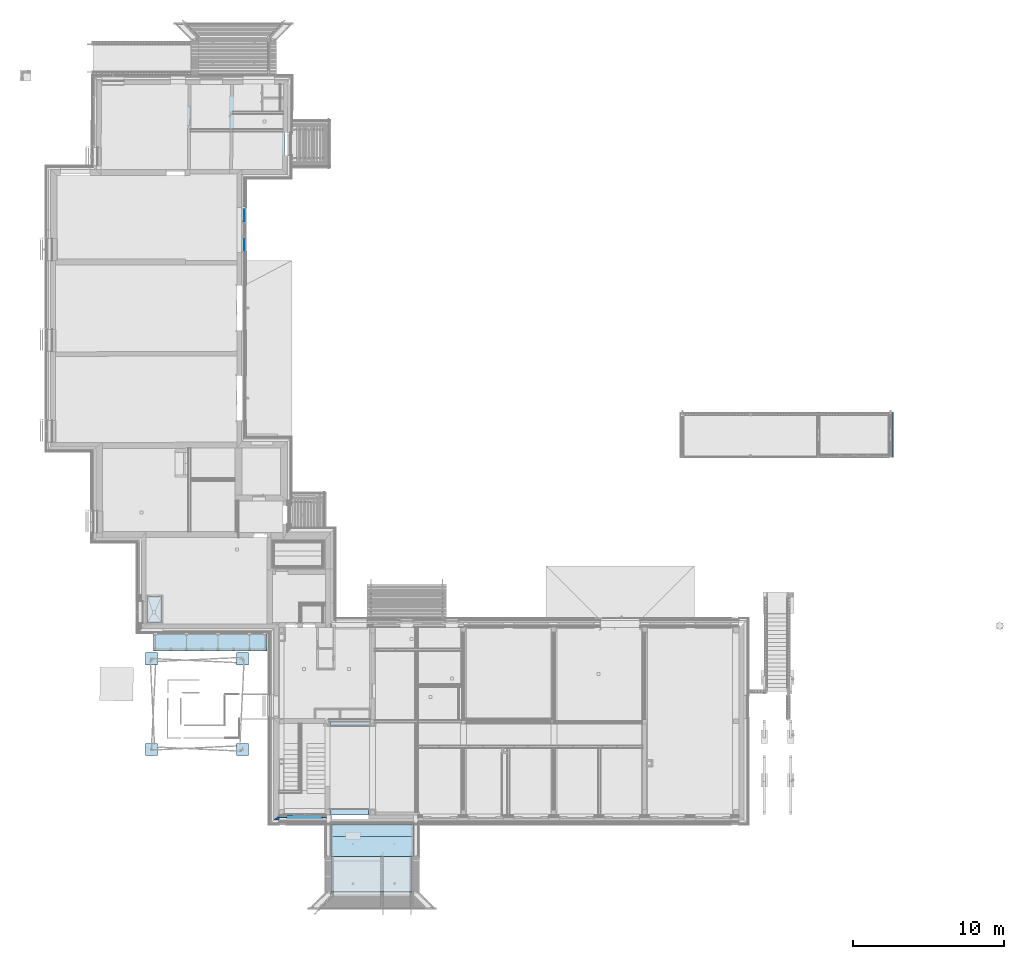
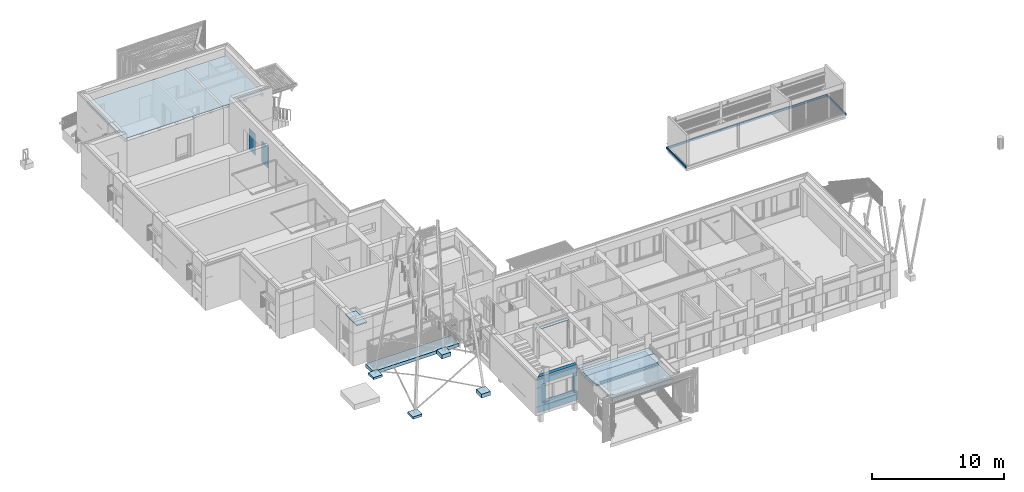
# One storey, part 20 of 418: 9 slabs, 7 plates, 2 walls, 2 openings, 1 element without a shape of its own.
"""IFC2X3 building model written with IfcOpenShell, lengths in millimetres."""

import ifcopenshell
import ifcopenshell.guid

model = None  # the IFC model being written
_history = None  # IfcOwnerHistory: only IFC2X3 demands one
_inside = {}  # id of a spatial element -> (the spatial element, [elements in it])
_under = {}  # id of a project, library or spatial element -> (it, [spatial elements below it])
_declared = {}  # id of a project -> (the project, [libraries it declares])
_typed = {}  # id of a type object -> (the type object, [elements of that type])
_made_of = {}  # id of a material, layer set ... -> (it, [elements and type objects made of it])


def new_model(schema):
    """Start an empty IFC model of exactly this schema.

    Asked for "IFC4X3", IfcOpenShell would pick the latest addendum, in which some entities
    have other attributes; the version numbers below select the first issue.
    IFC2X3 requires an IfcOwnerHistory on every rooted entity: one is made here for all.
    """
    global model, _history
    if schema == "IFC4X3":
        model = ifcopenshell.file(schema_version=(4, 3, 0, 0))
    else:
        model = ifcopenshell.file(schema=schema)
    _inside.clear()
    _under.clear()
    _declared.clear()
    _typed.clear()
    _made_of.clear()
    _history = None
    if model.schema == "IFC2X3":
        org = make("IfcOrganization", Name="unknown")
        user = make(
            "IfcPersonAndOrganization",
            ThePerson=make("IfcPerson", FamilyName="unknown"),
            TheOrganization=org,
        )
        app = make(
            "IfcApplication",
            ApplicationDeveloper=org,
            Version="unknown",
            ApplicationFullName="unknown",
            ApplicationIdentifier="unknown",
        )
        _history = make(
            "IfcOwnerHistory",
            OwningUser=user,
            OwningApplication=app,
            ChangeAction="ADDED",
            CreationDate=0,
        )
    return model


def make(cls, **values):
    """One entity of the class cls with the attributes given. An attribute that is None is left unset."""
    return model.create_entity(
        cls, **{name: value for name, value in values.items() if value is not None}
    )


def entity(cls, *values):
    """Any entity or typed value of the class cls, its attributes in the order of the schema. None: left unset."""
    e = model.create_entity(cls)
    for i, value in enumerate(values):
        if value is not None:
            e[i] = value
    return e


def rooted(cls, **values):
    """An entity with a GlobalId (a new one), such as an element, a storey or a relation."""
    return make(cls, GlobalId=ifcopenshell.guid.new(), OwnerHistory=_history, **values)


def si_unit(unit_type, name, prefix=None):
    """IfcSIUnit, for example si_unit("LENGTHUNIT", "METRE", prefix="MILLI")."""
    return make("IfcSIUnit", UnitType=unit_type, Prefix=prefix, Name=name)


def converted_unit(unit_type, name, factor, base, dimensions=None, offset=None):
    """IfcConversionBasedUnit, such as the inch: factor (a typed value) times the base unit."""
    return make(
        "IfcConversionBasedUnit"
        if offset is None
        else "IfcConversionBasedUnitWithOffset",
        ConversionOffset=offset,
        Dimensions=None
        if dimensions is None
        else entity("IfcDimensionalExponents", *dimensions),
        UnitType=unit_type,
        Name=name,
        ConversionFactor=make(
            "IfcMeasureWithUnit", ValueComponent=factor, UnitComponent=base
        ),
    )


def derived_unit(unit_type, elements):
    """IfcDerivedUnit: a product of units, each with its exponent."""
    return make(
        "IfcDerivedUnit",
        Elements=[
            make("IfcDerivedUnitElement", Unit=unit, Exponent=power)
            for unit, power in elements
        ],
        UnitType=unit_type,
    )


def money_unit(currency):
    """IfcMonetaryUnit."""
    return make("IfcMonetaryUnit", Currency=currency)


def assignment(units):
    """IfcUnitAssignment: the units of a project."""
    return None if units is None else make("IfcUnitAssignment", Units=units)


def point(xyz):
    """IfcCartesianPoint."""
    return None if xyz is None else make("IfcCartesianPoint", Coordinates=xyz)


def direction(xyz):
    """IfcDirection."""
    return None if xyz is None else make("IfcDirection", DirectionRatios=xyz)


def frame(location, z_axis=None, x_axis=None):
    """IfcAxis2Placement3D, a coordinate frame: its origin and axes. An axis left out is left unset."""
    return make(
        "IfcAxis2Placement3D",
        Location=point(location),
        Axis=direction(z_axis),
        RefDirection=direction(x_axis),
    )


def frame_2d(location, x_axis=None):
    """IfcAxis2Placement2D, a coordinate frame in the plane: its origin and x axis."""
    return make(
        "IfcAxis2Placement2D", Location=point(location), RefDirection=direction(x_axis)
    )


def origin_with_axes():
    """The frame at (0, 0, 0) with the z axis (0, 0, 1) and the x axis (1, 0, 0) written out."""
    return frame((0.0, 0.0, 0.0), z_axis=(0.0, 0.0, 1.0), x_axis=(1.0, 0.0, 0.0))


def origin_2d_with_axis():
    """The frame at (0, 0) in the plane with the x axis (1, 0) written out."""
    return frame_2d((0.0, 0.0), x_axis=(1.0, 0.0))


def place(relative_to, where):
    """IfcLocalPlacement: puts the frame where relative to a parent placement (None: the world)."""
    return make(
        "IfcLocalPlacement", PlacementRelTo=relative_to, RelativePlacement=where
    )


def context(
    kind, dimensions, precision=None, world=None, true_north=None, identifier=None
):
    """IfcGeometricRepresentationContext, for example the 3D "Model" context."""
    return make(
        "IfcGeometricRepresentationContext",
        ContextIdentifier=identifier,
        ContextType=kind,
        CoordinateSpaceDimension=dimensions,
        Precision=precision,
        WorldCoordinateSystem=world,
        TrueNorth=true_north,
    )


def subcontext(parent, identifier, kind, view, scale=None):
    """IfcGeometricRepresentationSubContext, for example "Body" below "Model"."""
    return make(
        "IfcGeometricRepresentationSubContext",
        ContextIdentifier=identifier,
        ContextType=kind,
        ParentContext=parent,
        TargetScale=scale,
        TargetView=view,
    )


def project(units=None, contexts=None):
    """IfcProject with its units and contexts."""
    return rooted(
        "IfcProject",
        Name="project",
        RepresentationContexts=contexts,
        UnitsInContext=assignment(units),
    )


def spatial(cls, under=None, at=None, **own):
    """A site, building, storey or space (cls), placed at a placement, below another one or the project."""
    s = rooted(cls, ObjectPlacement=at, **own)
    if under is not None:
        _under.setdefault(under.id(), (under, []))[1].append(s)
    return s


def polyline(points):
    """IfcPolyline through the points."""
    return make("IfcPolyline", Points=[point(p) for p in points])


def circle_curve(where, radius):
    """IfcCircle in the frame where."""
    return make("IfcCircle", Position=where, Radius=radius)


def parameter(value):
    """IfcParameterValue: where a trimmed curve begins or ends, as a parameter of its basis curve."""
    return model.create_entity("IfcParameterValue", value)


def trimmed(basis, trim1, trim2, sense, master):
    """IfcTrimmedCurve: the piece of a basis curve between two trims."""
    return make(
        "IfcTrimmedCurve",
        BasisCurve=basis,
        Trim1=trim1,
        Trim2=trim2,
        SenseAgreement=sense,
        MasterRepresentation=master,
    )


def segment(curve, same_sense, transition):
    """IfcCompositeCurveSegment."""
    return make(
        "IfcCompositeCurveSegment",
        Transition=transition,
        SameSense=same_sense,
        ParentCurve=curve,
    )


def composite_curve(segments, self_intersect=None):
    """IfcCompositeCurve: segments joined end to end."""
    return make("IfcCompositeCurve", Segments=segments, SelfIntersect=self_intersect)


def profile(cls, at=None, kind="AREA", **sizes):
    """A parametric profile (cls). Its sizes go by their IFC names, for example OverallWidth=200.0."""
    return make(cls, ProfileType=kind, Position=at, **sizes)


def rectangle(**sizes):
    """IfcRectangleProfileDef."""
    return profile("IfcRectangleProfileDef", **sizes)


def outline(outer, holes=None, kind="AREA"):
    """IfcArbitraryClosedProfileDef: a profile drawn as a closed curve; with holes, ...WithVoids."""
    if holes is None:
        return make("IfcArbitraryClosedProfileDef", ProfileType=kind, OuterCurve=outer)
    return make(
        "IfcArbitraryProfileDefWithVoids",
        ProfileType=kind,
        OuterCurve=outer,
        InnerCurves=holes,
    )


def extrude(swept, where, along, depth):
    """IfcExtrudedAreaSolid: the profile swept, set in the frame where, extruded along a direction by depth."""
    return make(
        "IfcExtrudedAreaSolid",
        SweptArea=swept,
        Position=where,
        ExtrudedDirection=direction(along),
        Depth=depth,
    )


def boolean(op, a, b):
    """IfcBooleanResult of two solids."""
    return make("IfcBooleanResult", Operator=op, FirstOperand=a, SecondOperand=b)


def faces_of(points, faces, orient=None, outer=None):
    """IfcFace entities. A face is a list of loops; a loop is a list of indices into points, from 0.

    orient and outer hold one flag for each loop. By default every Orientation is true, the
    first loop of a face is its IfcFaceOuterBound and the others are IfcFaceBound.
    """
    made = []
    for i, loops in enumerate(faces):
        bounds = []
        for j, loop in enumerate(loops):
            is_outer = j == 0 if outer is None else outer[i][j]
            bounds.append(
                make(
                    "IfcFaceOuterBound" if is_outer else "IfcFaceBound",
                    Bound=make("IfcPolyLoop", Polygon=[points[k] for k in loop]),
                    Orientation=True if orient is None else orient[i][j],
                )
            )
        made.append(make("IfcFace", Bounds=bounds))
    return made


def faceted_brep(points, faces, orient=None, outer=None, voids=None):
    """IfcFacetedBrep: a solid bounded by flat faces; with voids (closed shells), ...WithVoids."""
    shared = [point(p) for p in points]
    hull = make("IfcClosedShell", CfsFaces=faces_of(shared, faces, orient, outer))
    if voids is None:
        return make("IfcFacetedBrep", Outer=hull)
    return make(
        "IfcFacetedBrepWithVoids",
        Outer=hull,
        Voids=[
            make(cls, CfsFaces=faces_of(shared, fs, o, b)) for cls, fs, o, b in voids
        ],
    )


def shape(context_of_items, identifier, shape_type, items):
    """IfcShapeRepresentation: the items that make up one representation, for example the "Body"."""
    return make(
        "IfcShapeRepresentation",
        ContextOfItems=context_of_items,
        RepresentationIdentifier=identifier,
        RepresentationType=shape_type,
        Items=items,
    )


def material(Name=None, Category=None):
    """IfcMaterial."""
    return make("IfcMaterial", Name=Name, Category=Category)


def layer(
    of_material, thickness, ventilated=None, Name=None, Category=None, Priority=None
):
    """IfcMaterialLayer: one layer of a wall or slab, of a material (None: an air gap)."""
    return make(
        "IfcMaterialLayer",
        Material=of_material,
        LayerThickness=thickness,
        IsVentilated=ventilated,
        Name=Name,
        Category=Category,
        Priority=Priority,
    )


def layer_set(layers, Name=None):
    """IfcMaterialLayerSet."""
    return make("IfcMaterialLayerSet", MaterialLayers=layers, LayerSetName=Name)


def layer_usage(for_layer_set, set_direction, sense, offset, extent=None):
    """IfcMaterialLayerSetUsage: how a layer set lies in its element."""
    return make(
        "IfcMaterialLayerSetUsage",
        ForLayerSet=for_layer_set,
        LayerSetDirection=set_direction,
        DirectionSense=sense,
        OffsetFromReferenceLine=offset,
        ReferenceExtent=extent,
    )


def made_of(thing, what):
    """Note that an element or type object is made of a material, layer set ...; save() writes the relation."""
    if what is not None:
        _made_of.setdefault(what.id(), (what, []))[1].append(thing)
    return thing


def type_object(cls, material=None, **own):
    """A type object (cls), such as IfcWallType, which elements share."""
    return made_of(rooted(cls, **own), material)


def element(
    cls,
    number,
    at=None,
    inside=None,
    cuts=None,
    type_object=None,
    material=None,
    context=None,
    identifier="Body",
    shape_type=None,
    held_by="IfcProductDefinitionShape",
    body=None,
    shapes=None,
    **own,
):
    """One element of the class cls, such as IfcWall. Its Tag is "e" and its number.

    at: its placement. inside: the storey or other place that contains it. cuts: it is an
    opening in that element (IfcRelVoidsElement). A single representation is given by context,
    identifier, shape_type and body (its items); several are given by shapes. held_by: the class
    of the entity that holds the representations. save() writes the other relations.
    """
    e = rooted(cls, Tag="e%d" % number, ObjectPlacement=at, **own)
    if body is not None:
        shapes = [shape(context, identifier, shape_type, body)]
    if shapes is not None:
        e.Representation = make(held_by, Representations=shapes)
    if inside is not None:
        _inside.setdefault(inside.id(), (inside, []))[1].append(e)
    if cuts is not None:
        rooted(
            "IfcRelVoidsElement", RelatingBuildingElement=cuts, RelatedOpeningElement=e
        )
    if type_object is not None:
        _typed.setdefault(type_object.id(), (type_object, []))[1].append(e)
    return made_of(e, material)


def aggregate(whole, parts):
    """IfcRelAggregates: a whole, such as a stair, and the parts it consists of."""
    return rooted("IfcRelAggregates", RelatingObject=whole, RelatedObjects=parts)


def save(model, path):
    """Write the relations noted so far, then the file.

    IfcRelAggregates (storeys below a building ...), IfcRelContainedInSpatialStructure (elements
    in a storey), IfcRelDefinesByType, IfcRelAssociatesMaterial and IfcRelDeclares: one each for
    every whole, place, type object, material and project.
    """
    for whole, parts in _under.values():
        aggregate(whole, parts)
    for where, things in _inside.values():
        rooted(
            "IfcRelContainedInSpatialStructure",
            RelatedElements=things,
            RelatingStructure=where,
        )
    for kind, things in _typed.values():
        rooted("IfcRelDefinesByType", RelatedObjects=things, RelatingType=kind)
    for what, things in _made_of.values():
        rooted("IfcRelAssociatesMaterial", RelatedObjects=things, RelatingMaterial=what)
    for by, libraries in _declared.values():
        rooted("IfcRelDeclares", RelatingContext=by, RelatedDefinitions=libraries)
    model.write(path)


model = new_model("IFC2X3")

# Units and contexts
model_context = context("Model", 3, precision=0.01, world=origin_with_axes(), true_north=direction((0.0, 1.0)))
body_context = subcontext(model_context, "Body", "Model", "MODEL_VIEW")
ifc_project = project(units=[si_unit("LENGTHUNIT", "METRE", prefix="MILLI"), si_unit("AREAUNIT", "SQUARE_METRE"), si_unit("VOLUMEUNIT", "CUBIC_METRE"), converted_unit("PLANEANGLEUNIT", "DEGREE", entity("IfcPlaneAngleMeasure", 0.0174532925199), si_unit("PLANEANGLEUNIT", "RADIAN"), dimensions=[0, 0, 0, 0, 0, 0, 0]), si_unit("SOLIDANGLEUNIT", "STERADIAN"), money_unit("EUR"), converted_unit("TIMEUNIT", "Year", entity("IfcTimeMeasure", 31556926.0), si_unit("TIMEUNIT", "SECOND"), dimensions=[0, 0, 1, 0, 0, 0, 0]), si_unit("MASSUNIT", "GRAM", prefix="KILO"), si_unit("THERMODYNAMICTEMPERATUREUNIT", "DEGREE_CELSIUS"), si_unit("LUMINOUSINTENSITYUNIT", "LUMEN"), si_unit("ENERGYUNIT", "JOULE", prefix="MEGA"), derived_unit("THERMALCONDUCTANCEUNIT", [(si_unit("POWERUNIT", "WATT"), 1), (si_unit("LENGTHUNIT", "METRE"), -1), (si_unit("THERMODYNAMICTEMPERATUREUNIT", "KELVIN"), -1)]), derived_unit("SPECIFICHEATCAPACITYUNIT", [(si_unit("ENERGYUNIT", "JOULE"), 1), (si_unit("MASSUNIT", "GRAM", prefix="KILO"), -1), (si_unit("THERMODYNAMICTEMPERATUREUNIT", "KELVIN"), -1)]), derived_unit("MASSDENSITYUNIT", [(si_unit("MASSUNIT", "GRAM", prefix="KILO"), 1), (si_unit("VOLUMEUNIT", "CUBIC_METRE"), -1)])], contexts=[model_context])

# Site, building, storey
site_placement = place(None, origin_with_axes())
site = spatial("IfcSite", under=ifc_project, at=site_placement, Name="Paldiski mnt 245/1, Tallinn, Harjumaa", CompositionType="COMPLEX")
building_placement = place(site_placement, origin_with_axes())
building = spatial("IfcBuilding", under=site, at=building_placement, Name="RKAS Hoone üldnimetus (kasutust iseloomustav) -> IFC Project Manager -> SOLIBRI", CompositionType="ELEMENT")
storey_placement = place(building_placement, origin_with_axes())
storey = spatial("IfcBuildingStorey", under=building, at=storey_placement, Name="Esimene korrus", CompositionType="ELEMENT", Elevation=0.0)

# Slabs
ifc_material_1 = material(Name="SV-03_Plaat - Põrand")
slab_type_1 = type_object("IfcSlabType", Name="LADU LAGI 1_puhas paneel 12132 x 300", PredefinedType="ROOF")
slab_1_placement = place(storey_placement, frame((-47359.4811683, 35770.1148432, 3121.80696097), z_axis=(0.0, 0.0, 1.0), x_axis=(0.0, -1.0, 0.0)))
element("IfcSlab", 1, at=slab_1_placement, inside=storey, type_object=slab_type_1, material=ifc_material_1, Name="KL-02", PredefinedType="ROOF", context=body_context, shape_type="SweptSolid", body=[
    extrude(outline(composite_curve([segment(polyline([(91.6949504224, 300.0), (-12040.6098448, 300.0), (-12040.6098448, 0.0), (-11923.5312461, 0.0), (-11885.7551019, 203.193086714)]), True, "CONTINUOUS"), segment(trimmed(circle_curve(frame_2d((-11800.0891864, 181.909225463), x_axis=(-0.0637515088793, 0.99796580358)), 88.2703337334), [point((-11885.7551019, 203.193086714)), parameter(72.3920965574)], [point((-11805.7165534, 270.0)), parameter(0.0)], False, "CARTESIAN"), True, "CONTINUOUS"), segment(polyline([(-11805.7165534, 270.0), (-10690.8273104, 270.0)]), True, "CONTINUOUS"), segment(trimmed(circle_curve(frame_2d((-10691.4291008, 187.602546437), x_axis=(0.95533279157, 0.29553215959)), 82.3996511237), [point((-10690.8273104, 270.0)), parameter(72.3920965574)], [point((-10612.7100121, 211.954293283)), parameter(0.0)], False, "CARTESIAN"), True, "CONTINUOUS"), segment(polyline([(-10612.7100121, 211.954293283), (-10573.3050496, 0.0), (-10423.3050496, 0.0), (-10383.9000871, 211.954293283)]), True, "CONTINUOUS"), segment(trimmed(circle_curve(frame_2d((-10305.1809984, 187.602546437), x_axis=(-0.00730331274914, 0.999973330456)), 82.3996511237), [point((-10383.9000871, 211.954293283)), parameter(72.3920965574)], [point((-10305.7827888, 270.0)), parameter(0.0)], False, "CARTESIAN"), True, "CONTINUOUS"), segment(polyline([(-10305.7827888, 270.0), (-9170.82731038, 270.0)]), True, "CONTINUOUS"), segment(trimmed(circle_curve(frame_2d((-9171.42910081, 187.602546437), x_axis=(0.95533279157, 0.29553215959)), 82.3996511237), [point((-9170.82731038, 270.0)), parameter(72.3920965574)], [point((-9092.71001207, 211.954293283)), parameter(0.0)], False, "CARTESIAN"), True, "CONTINUOUS"), segment(polyline([(-9092.71001207, 211.954293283), (-9053.30504958, 0.0), (-8903.30504958, 0.0), (-8863.90008708, 211.954293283)]), True, "CONTINUOUS"), segment(trimmed(circle_curve(frame_2d((-8785.18099835, 187.602546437), x_axis=(-0.00730331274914, 0.999973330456)), 82.3996511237), [point((-8863.90008708, 211.954293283)), parameter(72.3920965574)], [point((-8785.78278877, 270.0)), parameter(0.0)], False, "CARTESIAN"), True, "CONTINUOUS"), segment(polyline([(-8785.78278877, 270.0), (-7650.82731038, 270.0)]), True, "CONTINUOUS"), segment(trimmed(circle_curve(frame_2d((-7651.42910081, 187.602546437), x_axis=(0.95533279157, 0.29553215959)), 82.3996511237), [point((-7650.82731038, 270.0)), parameter(72.3920965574)], [point((-7572.71001207, 211.954293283)), parameter(0.0)], False, "CARTESIAN"), True, "CONTINUOUS"), segment(polyline([(-7572.71001207, 211.954293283), (-7533.30504958, 0.0), (-7383.30504958, 0.0), (-7343.90008708, 211.954293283)]), True, "CONTINUOUS"), segment(trimmed(circle_curve(frame_2d((-7265.18099835, 187.602546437), x_axis=(-0.00730331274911, 0.999973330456)), 82.3996511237), [point((-7343.90008708, 211.954293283)), parameter(72.3920965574)], [point((-7265.78278877, 270.0)), parameter(0.0)], False, "CARTESIAN"), True, "CONTINUOUS"), segment(polyline([(-7265.78278877, 270.0), (-6150.82731038, 270.0)]), True, "CONTINUOUS"), segment(trimmed(circle_curve(frame_2d((-6151.42910081, 187.602546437), x_axis=(0.95533279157, 0.29553215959)), 82.3996511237), [point((-6150.82731038, 270.0)), parameter(72.3920965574)], [point((-6072.71001207, 211.954293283)), parameter(0.0)], False, "CARTESIAN"), True, "CONTINUOUS"), segment(polyline([(-6072.71001207, 211.954293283), (-6033.30504958, 0.0), (-5883.30504958, 0.0), (-5843.90008708, 211.954293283)]), True, "CONTINUOUS"), segment(trimmed(circle_curve(frame_2d((-5765.18099835, 187.602546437), x_axis=(-0.00730331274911, 0.999973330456)), 82.3996511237), [point((-5843.90008708, 211.954293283)), parameter(72.3920965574)], [point((-5765.78278877, 270.0)), parameter(0.0)], False, "CARTESIAN"), True, "CONTINUOUS"), segment(polyline([(-5765.78278877, 270.0), (-4640.82731038, 270.0)]), True, "CONTINUOUS"), segment(trimmed(circle_curve(frame_2d((-4641.42910081, 187.602546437), x_axis=(0.95533279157, 0.29553215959)), 82.3996511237), [point((-4640.82731038, 270.0)), parameter(72.3920965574)], [point((-4562.71001207, 211.954293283)), parameter(0.0)], False, "CARTESIAN"), True, "CONTINUOUS"), segment(polyline([(-4562.71001207, 211.954293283), (-4523.30504958, 0.0), (-4373.30504958, 0.0), (-4333.90008708, 211.954293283)]), True, "CONTINUOUS"), segment(trimmed(circle_curve(frame_2d((-4255.18099835, 187.602546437), x_axis=(-0.00730331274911, 0.999973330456)), 82.3996511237), [point((-4333.90008708, 211.954293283)), parameter(72.3920965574)], [point((-4255.78278877, 270.0)), parameter(0.0)], False, "CARTESIAN"), True, "CONTINUOUS"), segment(polyline([(-4255.78278877, 270.0), (-3140.82731038, 270.0)]), True, "CONTINUOUS"), segment(trimmed(circle_curve(frame_2d((-3141.42910081, 187.602546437), x_axis=(0.95533279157, 0.29553215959)), 82.3996511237), [point((-3140.82731038, 270.0)), parameter(72.3920965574)], [point((-3062.71001207, 211.954293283)), parameter(0.0)], False, "CARTESIAN"), True, "CONTINUOUS"), segment(polyline([(-3062.71001207, 211.954293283), (-3023.30504958, 0.0), (-2873.30504958, 0.0), (-2833.90008708, 211.954293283)]), True, "CONTINUOUS"), segment(trimmed(circle_curve(frame_2d((-2755.18099835, 187.602546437), x_axis=(-0.00730331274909, 0.999973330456)), 82.3996511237), [point((-2833.90008708, 211.954293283)), parameter(72.3920965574)], [point((-2755.78278877, 270.0)), parameter(0.0)], False, "CARTESIAN"), True, "CONTINUOUS"), segment(polyline([(-2755.78278877, 270.0), (-1640.82731038, 270.0)]), True, "CONTINUOUS"), segment(trimmed(circle_curve(frame_2d((-1641.42910081, 187.602546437), x_axis=(0.95533279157, 0.29553215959)), 82.3996511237), [point((-1640.82731038, 270.0)), parameter(72.3920965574)], [point((-1562.71001207, 211.954293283)), parameter(0.0)], False, "CARTESIAN"), True, "CONTINUOUS"), segment(polyline([(-1562.71001207, 211.954293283), (-1523.30504958, 0.0), (-1373.30504958, 0.0), (-1333.90008708, 211.954293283)]), True, "CONTINUOUS"), segment(trimmed(circle_curve(frame_2d((-1255.18099835, 187.602546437), x_axis=(-0.00730331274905, 0.999973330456)), 82.3996511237), [point((-1333.90008708, 211.954293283)), parameter(72.3920965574)], [point((-1255.78278877, 270.0)), parameter(0.0)], False, "CARTESIAN"), True, "CONTINUOUS"), segment(polyline([(-1255.78278877, 270.0), (-140.827310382, 270.0)]), True, "CONTINUOUS"), segment(trimmed(circle_curve(frame_2d((-141.429100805, 187.602546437), x_axis=(0.95533279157, 0.29553215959)), 82.3996511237), [point((-140.827310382, 270.0)), parameter(72.3920965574)], [point((-62.7100120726, 211.954293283)), parameter(0.0)], False, "CARTESIAN"), True, "CONTINUOUS"), segment(polyline([(-62.7100120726, 211.954293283), (-23.3050495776, 0.0), (91.6949504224, 0.0), (91.6949504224, 300.0)]), True, "CONTINUOUS")], self_intersect=False)), frame((0.0, 0.0, 0.0), z_axis=(1.0, 0.0, 0.0), x_axis=(0.0, 1.0, 0.0)), (0.0, 0.0, 1.0), 5740.1148432),
])
ifc_material_2 = material(Name="SKR-02_Kipsplaat")
ifc_layer_1 = layer(ifc_material_2, 13.0, ventilated="UNKNOWN")
ifc_layer_set_1 = layer_set([ifc_layer_1], Name="SKR-02_Kipsplaat 13")
ifc_layer_usage_1 = layer_usage(ifc_layer_set_1, "AXIS3", "NEGATIVE", 13.0)
slab_type_2 = type_object("IfcSlabType", Name="SKR-02_Kipsplaat 13", PredefinedType="NOTDEFINED")
slab_2_placement = place(storey_placement, frame((-44250.0000219, -12509.0840871, 2600.0), z_axis=(0.0, 0.0, 1.0), x_axis=(1.0, 0.0, 0.0)))
element("IfcSlab", 2, at=slab_2_placement, inside=storey, type_object=slab_type_2, material=ifc_layer_usage_1, Name="VL-01", PredefinedType="NOTDEFINED", context=body_context, shape_type="SweptSolid", body=[
    extrude(outline(polyline([(0.0, 0.0), (2560.0, 0.0), (2560.0, 389.0), (0.0, 389.0), (0.0, 0.0)])), origin_with_axes(), (0.0, 0.0, 1.0), 13.0),
])
ifc_layer_usage_2 = layer_usage(ifc_layer_set_1, "AXIS3", "NEGATIVE", 13.0)
slab_3_placement = place(storey_placement, frame((-44250.0000219, -6620.08408706, 2670.0), z_axis=(0.0, 0.0, 1.0), x_axis=(1.0, 0.0, 0.0)))
element("IfcSlab", 3, at=slab_3_placement, inside=storey, type_object=slab_type_2, material=ifc_layer_usage_2, Name="VL-01", PredefinedType="NOTDEFINED", context=body_context, shape_type="SweptSolid", body=[
    extrude(outline(polyline([(0.0, 0.0), (2610.00002186, 0.0), (2610.00002186, 270.084087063), (0.0, 270.084087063), (0.0, 0.0)])), origin_with_axes(), (0.0, 0.0, 1.0), 13.0),
])
ifc_material_3 = material(Name="SP2B E-PIR")
ifc_layer_2 = layer(ifc_material_3, 100.0, ventilated="UNKNOWN")
ifc_layer_set_2 = layer_set([ifc_layer_2], Name="KL-03")
ifc_layer_usage_3 = layer_usage(ifc_layer_set_2, "AXIS3", "NEGATIVE", 100.0)
slab_type_3 = type_object("IfcSlabType", Name="KL-03 100", PredefinedType="ROOF")
slab_4_placement = place(storey_placement, frame((-56290.0, 230.000000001, 3141.80696097), z_axis=(0.0, 0.0, 1.0), x_axis=(1.0, 0.0, 0.0)))
element("IfcSlab", 4, at=slab_4_placement, inside=storey, type_object=slab_type_3, material=ifc_layer_usage_3, Name="KL-03", PredefinedType="ROOF", context=body_context, shape_type="SweptSolid", body=[
    extrude(outline(polyline([(0.0, 0.0), (900.000023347, 0.0), (900.000023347, 1699.99992126), (0.0, 1699.99992126), (0.0, 0.0)])), frame((0.0, 0.0, -100.0), z_axis=(0.0, 0.0, 1.0), x_axis=(1.0, 0.0, 0.0)), (0.0, 0.0, 1.0), 100.0),
])
ifc_material_4 = material(Name="VMR-01_Puit - Katus")
slab_type_4 = type_object("IfcSlabType", Name="VMR-01_Puit - Katus 271", PredefinedType="ROOF")
slab_5_placement = place(storey_placement, frame((-41916.2662214, -17360.8075318, 2607.94375363), z_axis=(0.0, 0.0, 1.0), x_axis=(1.0, 0.0, 0.0)))
element("IfcSlab", 5, at=slab_5_placement, inside=storey, type_object=slab_type_4, material=ifc_material_4, Name="Varikatus", PredefinedType="ROOF", context=body_context, shape_type="Brep", body=[
    faceted_brep([(-2248.4018971, -186.972690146, 271.0), (3079.5981029, -186.972690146, 271.0), (3079.5981029, 2130.72323076, 271.0), (-2248.4018971, 2130.72319999, 271.0), (-2248.40189749, -299.224565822, 2.83121970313e-07), (3079.59810319, -299.224565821, 2.83121970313e-07), (3079.59810319, 2130.72323075, 2.83121970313e-07), (-2248.40189749, 2130.72320002, 2.83121970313e-07)], [[[0, 1, 2, 3]], [[1, 0, 4, 5]], [[2, 1, 5, 6]], [[3, 2, 6, 7]], [[0, 3, 7, 4]], [[5, 4, 7, 6]]]),
])
ifc_material_5 = material(Name="KON-04_Betoon - Konstuktsioon")
ifc_layer_3 = layer(ifc_material_5, 200.0, ventilated="UNKNOWN")
ifc_layer_set_3 = layer_set([ifc_layer_3], Name="KON-04_Betoon - Konstuktsioon 200")
ifc_layer_usage_4 = layer_usage(ifc_layer_set_3, "AXIS3", "NEGATIVE", 200.0)
slab_type_5 = type_object("IfcSlabType", Name="KON-04_Betoon - Konstuktsioon 200", PredefinedType="ROOF")
slab_6_placement = place(storey_placement, frame((-44190.0, -13933.6326889, 2652.1757952), z_axis=(0.0, 0.0, 1.0), x_axis=(1.0, 0.0, 0.0)))
element("IfcSlab", 6, at=slab_6_placement, inside=storey, type_object=slab_type_5, material=ifc_layer_usage_4, Name="KATUS", PredefinedType="ROOF", context=body_context, shape_type="SweptSolid", body=[
    extrude(outline(polyline([(5770.0, 0.0), (5770.0, 806.227889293), (-299.999999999, 806.227889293), (-299.999999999, 0.0), (5770.0, 0.0)])), frame((0.0, 0.0, 0.0), z_axis=(0.0, -0.0814614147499, 0.996676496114), x_axis=(1.0, 0.0, 0.0)), (0.0, 0.0814614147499, 0.996676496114), 200.666917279),
])
ifc_layer_usage_5 = layer_usage(ifc_layer_set_3, "AXIS3", "NEGATIVE", 200.0)
slab_7_placement = place(storey_placement, frame((-38720.0, -13933.6326889, 2652.40042993), z_axis=(0.0, 0.0, 1.0), x_axis=(-1.0, 0.0, 0.0)))
element("IfcSlab", 7, at=slab_7_placement, inside=storey, type_object=slab_type_5, material=ifc_layer_usage_5, Name="KATUS", PredefinedType="ROOF", context=body_context, shape_type="SweptSolid", body=[
    extrude(outline(polyline([(-300.000000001, 0.0), (5770.0, 0.0), (5770.0, 1299.31860183), (-300.000000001, 1299.31860183), (-300.000000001, 0.0)])), frame((0.0, 0.0, 0.0), z_axis=(0.0, -0.0663942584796, 0.997793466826), x_axis=(1.0, 0.0, 0.0)), (0.0, 0.0663942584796, 0.997793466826), 200.442282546),
])
ifc_material_6 = material(Name="KON-00_GENEERILINE - KONSTRUKTSIOON")
ifc_layer_4 = layer(ifc_material_6, 130.041507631, ventilated="UNKNOWN")
ifc_layer_set_4 = layer_set([ifc_layer_4], Name="KON-00_GENEERILINE - KONSTRUKTSIOON 130.042")
ifc_layer_usage_6 = layer_usage(ifc_layer_set_4, "AXIS3", "NEGATIVE", 130.041507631)
slab_type_6 = type_object("IfcSlabType", Name="KON-00_GENEERILINE - KONSTRUKTSIOON 130", PredefinedType="ROOF")
slab_8_placement = place(storey_placement, frame((-44190.0, -15230.0843011, 2737.98526126), z_axis=(0.0, 0.0, 1.0), x_axis=(1.0, 0.0, 0.0)))
element("IfcSlab", 8, at=slab_8_placement, inside=storey, type_object=slab_type_6, material=ifc_layer_usage_6, Name="KATUS", PredefinedType="ROOF", context=body_context, shape_type="CSG", body=[
    boolean("DIFFERENCE", extrude(outline(polyline([(0.0, 0.0), (5470.0, 0.0), (5470.0, 2100.00000039), (0.0, 2100.00000039), (0.0, 0.0)])), frame((0.0, 0.0, -130.041507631), z_axis=(0.0, 0.0, 1.0), x_axis=(1.0, 0.0, 0.0)), (0.0, 0.0, 1.0), 130.041507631), faceted_brep([(5470.0, 1296.45161232, -85.5848315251), (5470.0, 1296.45161207, -85.8094662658), (5470.0, 2100.00000039, -20.1330017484), (5470.0, 2100.00000039, 0.0), (5470.0, 10.2562738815, 0.0), (0.0, 1296.45161232, -85.5848315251), (0.0, 1296.45161207, -85.8094662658), (0.0, 2100.00000039, -20.1330017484), (0.0, 2100.00000039, 0.0), (0.0, 10.256273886, 0.0)], [[[0, 1, 2, 3, 4]], [[1, 0, 5, 6]], [[7, 2, 1, 6]], [[2, 7, 8, 3]], [[9, 4, 3, 8]], [[0, 4, 9, 5]], [[5, 9, 8, 7, 6]]])),
])
ifc_layer_usage_7 = layer_usage(ifc_layer_set_3, "AXIS3", "NEGATIVE", 200.0)
slab_type_7 = type_object("IfcSlabType", Name="KON-04_Betoon - Konstuktsioon 200", PredefinedType="NOTDEFINED")
slab_9_placement = place(storey_placement, frame((-7049.27180457, 11149.7949523, -1060.0), z_axis=(0.0, 0.0, 1.0), x_axis=(1.0, 0.0, 0.0)))
element("IfcSlab", 9, at=slab_9_placement, inside=storey, type_object=slab_type_7, material=ifc_layer_usage_7, Name="Äärekivi", PredefinedType="NOTDEFINED", context=body_context, shape_type="SweptSolid", body=[
    extrude(outline(polyline([(0.0, 0.0), (6.74258346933e-05, 2969.99995291), (-14100.0000242, 2969.99996159), (-14100.0000916, 8.68228156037e-06), (-14019.9999031, 1.37551445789e-05), (-14019.9999779, 2889.99989892), (-79.9999952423, 2889.99990656), (-79.9999204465, 2.13942801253e-05), (0.0, 0.0)])), frame((0.0, 0.0, -200.0), z_axis=(0.0, 0.0, 1.0), x_axis=(1.0, 0.0, 0.0)), (0.0, 0.0, 1.0), 200.0),
])

# Plates
plate_type_1 = type_object("IfcPlateType", Name="KON-00_GENEERILINE - KONSTRUKTSIOON 360", PredefinedType="NOTDEFINED")
for number, where, z_axis, x_axis in (
    (10, (-49638.938859, -8576.3634091, 19.3750101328), (0.0, 0.0, 1.0), (1.0, 0.0, 0.0)),
    (11, (-49638.938859, -2576.3634091, 19.3750101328), (0.0, 0.0, 1.0), (1.0, 0.0, 0.0)),
):
    element("IfcPlate", number, at=place(storey_placement, frame(where, z_axis=z_axis, x_axis=x_axis)), inside=storey, type_object=plate_type_1, material=ifc_material_6, Name="PLAAT", context=body_context, shape_type="SweptSolid", body=[
        extrude(outline(polyline([(0.0, 0.0), (0.0, 800.0), (-800.0, 800.0), (-800.0, 0.0), (0.0, 0.0)])), frame((0.0, 0.0, -360.0), z_axis=(0.0, 0.0, 1.0), x_axis=(1.0, 0.0, 0.0)), (0.0, 0.0, 1.0), 360.0),
    ])
plate_type_2 = type_object("IfcPlateType", Name="KON-00_GENEERILINE - KONSTRUKTSIOON 220", PredefinedType="NOTDEFINED")
plate_1_placement = place(storey_placement, frame((-55638.938859, -8576.3634091, 19.3750101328), z_axis=(0.0, 0.0, 1.0), x_axis=(1.0, 0.0, 0.0)))
element("IfcPlate", 12, at=plate_1_placement, inside=storey, type_object=plate_type_2, material=ifc_material_6, Name="PLAAT", context=body_context, shape_type="SweptSolid", body=[
    extrude(outline(polyline([(0.0, 0.0), (0.0, 800.0), (-800.0, 800.0), (-800.0, 0.0), (0.0, 0.0)])), frame((0.0, 0.0, -220.0), z_axis=(0.0, 0.0, 1.0), x_axis=(1.0, 0.0, 0.0)), (0.0, 0.0, 1.0), 220.0),
])
plate_type_3 = type_object("IfcPlateType", Name="KON-00_GENEERILINE - KONSTRUKTSIOON 200", PredefinedType="NOTDEFINED")
plate_2_placement = place(storey_placement, frame((-55638.938859, -2576.3634091, 19.3750101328), z_axis=(0.0, 0.0, 1.0), x_axis=(1.0, 0.0, 0.0)))
element("IfcPlate", 13, at=plate_2_placement, inside=storey, type_object=plate_type_3, material=ifc_material_6, Name="PLAAT", context=body_context, shape_type="SweptSolid", body=[
    extrude(outline(polyline([(0.0, 0.0), (0.0, 800.0), (-800.0, 800.0), (-800.0, 0.0), (0.0, 0.0)])), frame((0.0, 0.0, -200.0), z_axis=(0.0, 0.0, 1.0), x_axis=(1.0, 0.0, 0.0)), (0.0, 0.0, 1.0), 200.0),
])
ifc_material_7 = material(Name="ET-02_Raudbetoon - Toode")
plate_type_4 = type_object("IfcPlateType", Name="ET-02_Raudbetoon - Toode 300", PredefinedType="NOTDEFINED")
plate_3_placement = place(storey_placement, frame((-55914.3907599, -1655.71022117, -150.0), z_axis=(0.0, 0.0, 1.0), x_axis=(1.0, 0.0, 0.0)))
element("IfcPlate", 14, at=plate_3_placement, inside=storey, type_object=plate_type_4, material=ifc_material_7, Name="AP-02", context=body_context, shape_type="SweptSolid", body=[
    extrude(outline(polyline([(0.0, 0.0), (7508.96763684, 0.0), (7508.96763684, 1200.0), (0.0, 1200.0), (0.0, 0.0)])), frame((0.0, 0.0, -300.0), z_axis=(0.0, 0.0, 1.0), x_axis=(1.0, 0.0, 0.0)), (0.0, 0.0, 1.0), 300.0),
])

# Curtain wall, plates
curtain_wall_type = type_object("IfcCurtainWallType", Name="Curtain Wall Type", PredefinedType="NOTDEFINED")
curtain_wall_placement = place(storey_placement, frame((-49920.0000069, 26094.8964638, 622.996891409), z_axis=(0.0, 0.0, 1.0), x_axis=(1.0, 0.0, 0.0)))
curtain_wall = element("IfcCurtainWall", 15, at=curtain_wall_placement, inside=storey, type_object=curtain_wall_type, Name="KLF-01")
ifc_material_8 = material(Name="VKR-05_Klaas")
plate_type_5 = type_object("IfcPlateType", Name="Main Panel 720 x 5 x 20", PredefinedType="CURTAIN_PANEL")
plate_4_placement = place(curtain_wall_placement, frame((0.0, -962.000028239, 1116.40219382), z_axis=(0.0, 0.0, 1.0), x_axis=(0.0, 1.0, 0.0)))
plate_4 = element("IfcPlate", 16, at=plate_4_placement, type_object=plate_type_5, material=ifc_material_8, Name="RF PANEEL PEAMINE-030", ObjectType="CURTAIN_PANEL", context=body_context, shape_type="SweptSolid", body=[
    extrude(outline(polyline([(-441.067881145, -840.600977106), (534.101773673, -840.600977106), (534.101773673, -835.600980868), (539.101769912, -835.600980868), (539.101769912, 1116.40221675), (534.101773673, 1116.40221675), (534.101773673, 1121.40221299), (-441.067881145, 1121.40221299), (-441.067881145, 1116.40221675), (-446.067877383, 1116.40221675), (-446.067877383, -835.600980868), (-441.067881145, -835.600980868), (-441.067881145, -840.600977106)])), frame((0.0, -10.0, 0.0), z_axis=(0.0, 1.0, 0.0), x_axis=(1.0, 0.0, 0.0)), (0.0, 0.0, 1.0), 20.0),
])
plate_type_6 = type_object("IfcPlateType", Name="Main Panel 875 x 5 x 20", PredefinedType="CURTAIN_PANEL")
plate_5_placement = place(curtain_wall_placement, frame((0.0, 961.932185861, 1116.40219779), z_axis=(0.0, 0.0, 1.0), x_axis=(0.0, 1.0, 0.0)))
plate_5 = element("IfcPlate", 17, at=plate_5_placement, type_object=plate_type_6, material=ifc_material_8, Name="RF PANEEL PEAMINE-028", ObjectType="CURTAIN_PANEL", context=body_context, shape_type="SweptSolid", body=[
    extrude(outline(polyline([(-410.000025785, -840.600973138), (565.000023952, -840.600973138), (565.000023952, -835.600976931), (570.000020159, -835.600976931), (570.000020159, 1116.40220836), (565.000023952, 1116.40220836), (565.000023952, 1121.40220457), (-409.999996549, 1121.40220457), (-409.999996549, 1116.40220836), (-415.000021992, 1116.40220836), (-415.000021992, -835.600976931), (-410.000025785, -835.600976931), (-410.000025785, -840.600973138)])), frame((0.0, -9.99999999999, 0.0), z_axis=(0.0, 1.0, 0.0), x_axis=(1.0, 0.0, 0.0)), (0.0, 0.0, 1.0), 20.0),
])
aggregate(curtain_wall, [plate_4, plate_5])

# Wall, opening
ifc_material_9 = material(Name="Olemasolev silikaltsiitpaneel")
ifc_layer_5 = layer(ifc_material_9, 320.0, ventilated="UNKNOWN")
ifc_layer_set_5 = layer_set([ifc_layer_5], Name="VS-02_olol")
ifc_layer_usage_8 = layer_usage(ifc_layer_set_5, "AXIS2", "POSITIVE", 0.0)
wall_type_1 = type_object("IfcWallType", Name="VS-02_olol 320", PredefinedType="NOTDEFINED")
wall_1_placement = place(storey_placement, frame((-44490.0, -12510.0843011, 0.0), z_axis=(0.0, 0.0, 1.0), x_axis=(-1.0, 0.0, 0.0)))
wall_1 = element("IfcWallStandardCase", 18, at=wall_1_placement, inside=storey, type_object=wall_type_1, material=ifc_layer_usage_8, Name="VS-02", context=body_context, shape_type="SweptSolid", body=[
    extrude(outline(polyline([(0.0, 0.0), (3100.0, 0.0), (3490.0, 320.0), (0.0, 320.0), (0.0, 0.0)])), origin_with_axes(), (0.0, 0.0, 1.0), 3300.0),
])
opening_1_placement = place(wall_1_placement, frame((-44490.0, -12510.0843011, 0.0), z_axis=(0.0, 0.0, 1.0), x_axis=(-1.0, 0.0, 0.0)))
element("IfcOpeningElement", 19, at=opening_1_placement, cuts=wall_1, Name="AVA", ObjectType="OPENING", context=body_context, shape_type="SweptSolid", body=[
    extrude(rectangle(XDim=3100.0, YDim=1750.0, at=origin_2d_with_axis()), frame((-46040.0, -12190.0843011, 1685.0), z_axis=(0.0, 1.0, 0.0), x_axis=(-1.0, 0.0, 0.0)), (0.0, 0.0, -1.0), 960.0),
])

ifc_material_10 = material(Name="Olemasolev silikaltsiitplokk")
ifc_layer_6 = layer(ifc_material_10, 115.0, ventilated="UNKNOWN")
ifc_layer_set_6 = layer_set([ifc_layer_6], Name="VS-04_olol")
ifc_layer_usage_9 = layer_usage(ifc_layer_set_6, "AXIS2", "POSITIVE", 0.0)
wall_type_2 = type_object("IfcWallType", Name="VS-04_olol 115", PredefinedType="NOTDEFINED")
wall_2_placement = place(storey_placement, frame((-44190.0, -12575.0843011, 810.0), z_axis=(0.0, 0.0, 1.0), x_axis=(-1.0, 0.0, 0.0)))
wall_2 = element("IfcWallStandardCase", 20, at=wall_2_placement, inside=storey, type_object=wall_type_2, material=ifc_layer_usage_9, Name="VS-04", context=body_context, shape_type="SweptSolid", body=[
    extrude(outline(polyline([(300.0, 0.0), (3400.0, 0.0), (3400.0, 115.0), (300.0, 115.0), (300.0, 0.0)])), origin_with_axes(), (0.0, 0.0, 1.0), 1783.89969316),
])
opening_2_placement = place(wall_2_placement, frame((1760.0, 0.0, 0.0), z_axis=(0.0, 0.0, 1.0), x_axis=(1.0, 0.0, 0.0)))
element("IfcOpeningElement", 21, at=opening_2_placement, cuts=wall_2, Name="AVA", context=body_context, shape_type="SweptSolid", body=[
    extrude(rectangle(XDim=2400.0, YDim=1750.0, at=origin_2d_with_axis()), frame((0.0, 35.0, 875.0), z_axis=(0.0, -1.0, 0.0), x_axis=(1.0, 0.0, 0.0)), (0.0, 0.0, -1.0), 195.0),
    extrude(rectangle(XDim=2400.0, YDim=1750.0, at=origin_2d_with_axis()), frame((0.0, 35.0, 875.0), z_axis=(0.0, 1.0, 0.0), x_axis=(1.0, 0.0, 0.0)), (0.0, 0.0, -1.0), 195.0),
])

save(model, "model.ifc")
